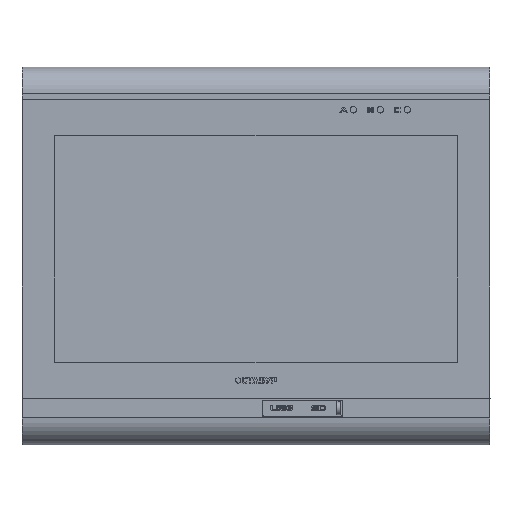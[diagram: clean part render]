
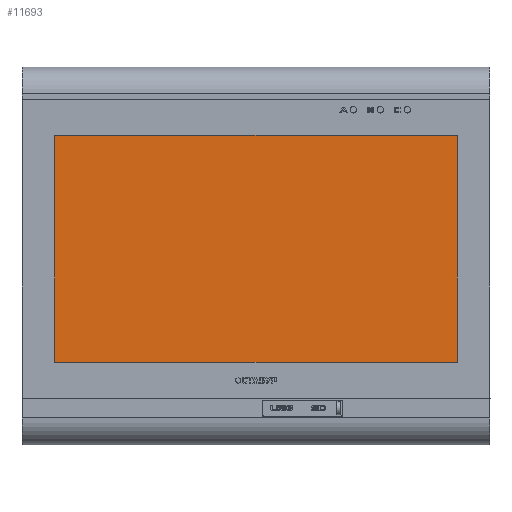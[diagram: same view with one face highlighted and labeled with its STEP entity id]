
A CAD part, top view. The second image highlights one B-rep face of the part: STEP entity #11693.
In plain terms, the highlighted planar face has unit normal (0, 0, 1).
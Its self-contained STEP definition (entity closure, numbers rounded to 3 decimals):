
#1195 = VECTOR ( 'NONE', #55825, 1000. ) ;
#4203 = LINE ( 'NONE', #33720, #7571 ) ;
#4485 = DIRECTION ( 'NONE',  ( 0., 0., 1. ) ) ;
#4692 = EDGE_CURVE ( 'NONE', #28308, #21275, #23265, .T. ) ;
#4969 = ORIENTED_EDGE ( 'NONE', *, *, #47991, .T. ) ;
#7571 = VECTOR ( 'NONE', #62428, 1000. ) ;
#8308 = PLANE ( 'NONE',  #27493 ) ;
#8403 = CARTESIAN_POINT ( 'NONE',  ( 241.75, 45.9, 14.9 ) ) ;
#11693 = ADVANCED_FACE ( 'NONE', ( #66508 ), #8308, .T. ) ;
#12140 = VERTEX_POINT ( 'NONE', #8403 ) ;
#13523 = CARTESIAN_POINT ( 'NONE',  ( 18.25, 171.95, 14.9 ) ) ;
#15427 = LINE ( 'NONE', #38540, #24112 ) ;
#15616 = EDGE_CURVE ( 'NONE', #21275, #58896, #65289, .T. ) ;
#17206 = CARTESIAN_POINT ( 'NONE',  ( 18.25, 171.95, 14.9 ) ) ;
#21275 = VERTEX_POINT ( 'NONE', #17206 ) ;
#21914 = DIRECTION ( 'NONE',  ( 1., 0., 0. ) ) ;
#23265 = LINE ( 'NONE', #35377, #28030 ) ;
#24112 = VECTOR ( 'NONE', #60845, 1000. ) ;
#27493 = AXIS2_PLACEMENT_3D ( 'NONE', #33630, #4485, #21914 ) ;
#28030 = VECTOR ( 'NONE', #40689, 1000. ) ;
#28308 = VERTEX_POINT ( 'NONE', #74860 ) ;
#33630 = CARTESIAN_POINT ( 'NONE',  ( 130., 25.9, 14.9 ) ) ;
#33720 = CARTESIAN_POINT ( 'NONE',  ( 18.25, 45.9, 14.9 ) ) ;
#35377 = CARTESIAN_POINT ( 'NONE',  ( 18.25, 171.95, 14.9 ) ) ;
#38540 = CARTESIAN_POINT ( 'NONE',  ( 241.75, 171.95, 14.9 ) ) ;
#40689 = DIRECTION ( 'NONE',  ( -1., 0., 0. ) ) ;
#45952 = ORIENTED_EDGE ( 'NONE', *, *, #52341, .T. ) ;
#47991 = EDGE_CURVE ( 'NONE', #58896, #12140, #4203, .T. ) ;
#52341 = EDGE_CURVE ( 'NONE', #12140, #28308, #15427, .T. ) ;
#54773 = ORIENTED_EDGE ( 'NONE', *, *, #15616, .T. ) ;
#54961 = ORIENTED_EDGE ( 'NONE', *, *, #4692, .T. ) ;
#55825 = DIRECTION ( 'NONE',  ( 0., -1., 0. ) ) ;
#58866 = EDGE_LOOP ( 'NONE', ( #54773, #4969, #45952, #54961 ) ) ;
#58896 = VERTEX_POINT ( 'NONE', #62753 ) ;
#60845 = DIRECTION ( 'NONE',  ( 0., 1., 0. ) ) ;
#62428 = DIRECTION ( 'NONE',  ( 1., 0., 0. ) ) ;
#62753 = CARTESIAN_POINT ( 'NONE',  ( 18.25, 45.9, 14.9 ) ) ;
#65289 = LINE ( 'NONE', #13523, #1195 ) ;
#66508 = FACE_OUTER_BOUND ( 'NONE', #58866, .T. ) ;
#74860 = CARTESIAN_POINT ( 'NONE',  ( 241.75, 171.95, 14.9 ) ) ;
